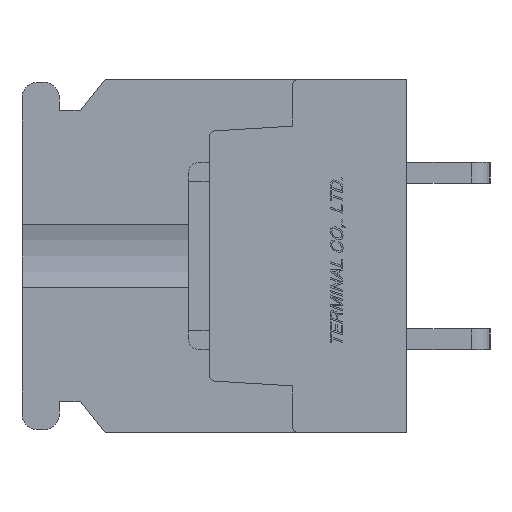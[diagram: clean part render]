
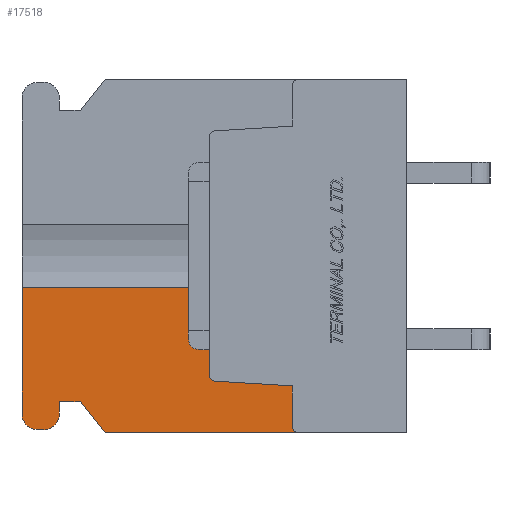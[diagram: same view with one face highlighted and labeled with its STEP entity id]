
A CAD part, left-side view. The second image highlights one B-rep face of the part: STEP entity #17518.
In plain terms, the highlighted planar face has unit normal (-1, 0, 0).
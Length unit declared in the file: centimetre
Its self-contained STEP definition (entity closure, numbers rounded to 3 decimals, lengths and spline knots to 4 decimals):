
#1209=VECTOR('',#19916,1.);
#1210=VECTOR('',#19917,1.);
#1211=VECTOR('',#19918,1.);
#1212=VECTOR('',#19921,1.);
#1213=VECTOR('',#19924,1.);
#1214=VECTOR('',#19925,1.);
#1215=VECTOR('',#19926,1.);
#1216=VECTOR('',#19927,1.);
#1217=VECTOR('',#19930,1.);
#1218=VECTOR('',#19931,1.);
#3158=LINE('',#25006,#1209);
#3159=LINE('',#25009,#1210);
#3160=LINE('',#25011,#1211);
#3161=LINE('',#25015,#1212);
#3162=LINE('',#25019,#1213);
#3163=LINE('',#25021,#1214);
#3164=LINE('',#25023,#1215);
#3165=LINE('',#25025,#1216);
#3166=LINE('',#25029,#1217);
#3167=LINE('',#25031,#1218);
#5178=VERTEX_POINT('',#25007);
#5179=VERTEX_POINT('',#25008);
#5180=VERTEX_POINT('',#25010);
#5181=VERTEX_POINT('',#25012);
#5182=VERTEX_POINT('',#25014);
#5183=VERTEX_POINT('',#25016);
#5184=VERTEX_POINT('',#25018);
#5185=VERTEX_POINT('',#25020);
#5186=VERTEX_POINT('',#25022);
#5187=VERTEX_POINT('',#25024);
#5188=VERTEX_POINT('',#25026);
#5189=VERTEX_POINT('',#25028);
#5190=VERTEX_POINT('',#25030);
#5191=VERTEX_POINT('',#25032);
#6493=CIRCLE('',#29846,0.075);
#6494=CIRCLE('',#29847,0.075);
#6495=CIRCLE('',#29848,0.03);
#6496=CIRCLE('',#29849,0.03);
#7650=EDGE_CURVE('',#5178,#5179,#3158,.T.);
#7651=EDGE_CURVE('',#5178,#5180,#3159,.T.);
#7652=EDGE_CURVE('',#5181,#5180,#3160,.T.);
#7653=EDGE_CURVE('',#5182,#5181,#6493,.T.);
#7654=EDGE_CURVE('',#5183,#5182,#3161,.T.);
#7655=EDGE_CURVE('',#5184,#5183,#6494,.T.);
#7656=EDGE_CURVE('',#5185,#5184,#3162,.T.);
#7657=EDGE_CURVE('',#5186,#5185,#3163,.T.);
#7658=EDGE_CURVE('',#5187,#5186,#3164,.T.);
#7659=EDGE_CURVE('',#5188,#5187,#3165,.T.);
#7660=EDGE_CURVE('',#5189,#5188,#6495,.T.);
#7661=EDGE_CURVE('',#5190,#5189,#3166,.T.);
#7662=EDGE_CURVE('',#5191,#5190,#3167,.T.);
#7663=EDGE_CURVE('',#5179,#5191,#6496,.T.);
#11057=ORIENTED_EDGE('',*,*,#7650,.F.);
#11058=ORIENTED_EDGE('',*,*,#7651,.T.);
#11059=ORIENTED_EDGE('',*,*,#7652,.F.);
#11060=ORIENTED_EDGE('',*,*,#7653,.F.);
#11061=ORIENTED_EDGE('',*,*,#7654,.F.);
#11062=ORIENTED_EDGE('',*,*,#7655,.F.);
#11063=ORIENTED_EDGE('',*,*,#7656,.F.);
#11064=ORIENTED_EDGE('',*,*,#7657,.F.);
#11065=ORIENTED_EDGE('',*,*,#7658,.F.);
#11066=ORIENTED_EDGE('',*,*,#7659,.F.);
#11067=ORIENTED_EDGE('',*,*,#7660,.F.);
#11068=ORIENTED_EDGE('',*,*,#7661,.F.);
#11069=ORIENTED_EDGE('',*,*,#7662,.F.);
#11070=ORIENTED_EDGE('',*,*,#7663,.F.);
#15311=EDGE_LOOP('',(#11057,#11058,#11059,#11060,#11061,#11062,#11063,#11064,
#11065,#11066,#11067,#11068,#11069,#11070));
#16437=FACE_BOUND('',#15311,.T.);
#17518=ADVANCED_FACE('',(#16437),#18438,.F.);
#18438=PLANE('',#29845);
#19915=DIRECTION('',(1.,0.,0.));
#19916=DIRECTION('',(0.,0.,-1.));
#19917=DIRECTION('',(0.,1.,0.));
#19918=DIRECTION('',(0.,0.,1.));
#19919=DIRECTION('',(1.,0.,0.));
#19920=DIRECTION('',(0.,0.,-0.075));
#19921=DIRECTION('',(0.,1.,0.));
#19922=DIRECTION('',(1.,0.,0.));
#19923=DIRECTION('',(0.,0.,-0.075));
#19924=DIRECTION('',(0.,0.,-1.));
#19925=DIRECTION('',(0.,1.,0.));
#19926=DIRECTION('',(0.,0.625,0.781));
#19927=DIRECTION('',(0.,1.,0.));
#19928=DIRECTION('',(-1.,0.,0.));
#19929=DIRECTION('',(0.,0.,0.03));
#19930=DIRECTION('',(0.,0.,-1.));
#19931=DIRECTION('',(0.,-0.998,-0.061));
#19932=DIRECTION('',(-1.,0.,0.));
#19933=DIRECTION('',(0.,0.,0.03));
#25005=CARTESIAN_POINT('',(-1.1,0.9454,0.));
#25006=CARTESIAN_POINT('',(-1.1,0.95,0.5718));
#25007=CARTESIAN_POINT('',(-1.1,0.95,-0.1521));
#25008=CARTESIAN_POINT('',(-1.1,0.95,-0.5718));
#25009=CARTESIAN_POINT('',(-1.1,1.4,-0.1521));
#25010=CARTESIAN_POINT('',(-1.1,1.85,-0.1521));
#25011=CARTESIAN_POINT('',(-1.1,1.85,-0.76));
#25012=CARTESIAN_POINT('',(-1.1,1.85,-0.76));
#25013=CARTESIAN_POINT('',(-1.1,1.775,-0.76));
#25014=CARTESIAN_POINT('',(-1.1,1.775,-0.835));
#25015=CARTESIAN_POINT('',(-1.1,1.745,-0.835));
#25016=CARTESIAN_POINT('',(-1.1,1.745,-0.835));
#25017=CARTESIAN_POINT('',(-1.1,1.745,-0.76));
#25018=CARTESIAN_POINT('',(-1.1,1.67,-0.76));
#25019=CARTESIAN_POINT('',(-1.1,1.67,-0.7));
#25020=CARTESIAN_POINT('',(-1.1,1.67,-0.7));
#25021=CARTESIAN_POINT('',(-1.1,1.57,-0.7));
#25022=CARTESIAN_POINT('',(-1.1,1.57,-0.7));
#25023=CARTESIAN_POINT('',(-1.1,1.45,-0.85));
#25024=CARTESIAN_POINT('',(-1.1,1.45,-0.85));
#25025=CARTESIAN_POINT('',(-1.1,0.,-0.85));
#25026=CARTESIAN_POINT('',(-1.1,0.52,-0.85));
#25027=CARTESIAN_POINT('',(-1.1,0.52,-0.82));
#25028=CARTESIAN_POINT('',(-1.1,0.55,-0.82));
#25029=CARTESIAN_POINT('',(-1.1,0.55,-0.6245));
#25030=CARTESIAN_POINT('',(-1.1,0.55,-0.6245));
#25031=CARTESIAN_POINT('',(-1.1,0.9218,-0.6017));
#25032=CARTESIAN_POINT('',(-1.1,0.9218,-0.6017));
#25033=CARTESIAN_POINT('',(-1.1,0.92,-0.5718));
#29845=AXIS2_PLACEMENT_3D('',#25005,#19915,$);
#29846=AXIS2_PLACEMENT_3D('',#25013,#19919,#19920);
#29847=AXIS2_PLACEMENT_3D('',#25017,#19922,#19923);
#29848=AXIS2_PLACEMENT_3D('',#25027,#19928,#19929);
#29849=AXIS2_PLACEMENT_3D('',#25033,#19932,#19933);
